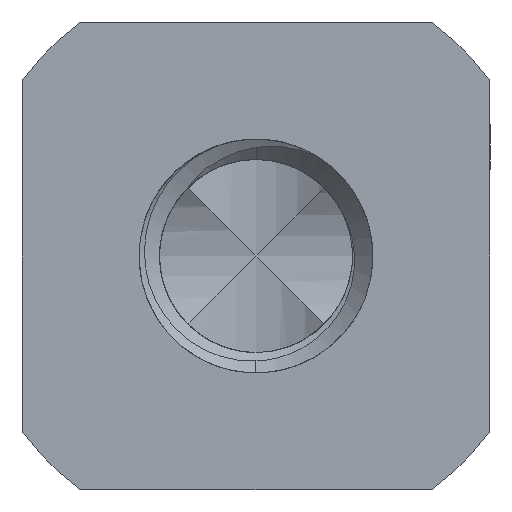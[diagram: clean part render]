
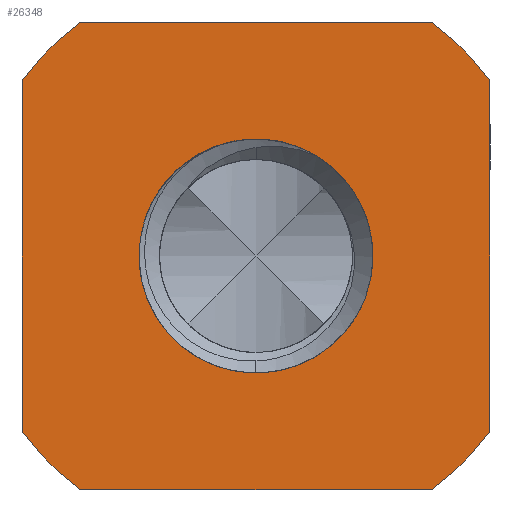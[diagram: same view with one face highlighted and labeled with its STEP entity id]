
A CAD part, front view. The second image highlights one B-rep face of the part: STEP entity #26348.
In plain terms, the highlighted planar face has unit normal (0, -1, 0).
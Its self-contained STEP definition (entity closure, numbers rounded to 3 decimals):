
#343 = CARTESIAN_POINT ( 'NONE',  ( 0., -4., 0. ) ) ;
#473 = CIRCLE ( 'NONE', #52669, 5. ) ;
#1511 = DIRECTION ( 'NONE',  ( 0., 1., 0. ) ) ;
#1901 = DIRECTION ( 'NONE',  ( 0., 0., 1. ) ) ;
#2270 = VECTOR ( 'NONE', #1901, 1000. ) ;
#2293 = VECTOR ( 'NONE', #25396, 1000. ) ;
#3403 = AXIS2_PLACEMENT_3D ( 'NONE', #37912, #42155, #4329 ) ;
#3519 = DIRECTION ( 'NONE',  ( 0., 0., 1. ) ) ;
#4329 = DIRECTION ( 'NONE',  ( 0., 0., 1. ) ) ;
#4933 = LINE ( 'NONE', #29852, #2293 ) ;
#4953 = DIRECTION ( 'NONE',  ( 0., 1., 0. ) ) ;
#5367 = ORIENTED_EDGE ( 'NONE', *, *, #23871, .F. ) ;
#5602 = CARTESIAN_POINT ( 'NONE',  ( 0., -4., 0. ) ) ;
#5639 = CIRCLE ( 'NONE', #38767, 5. ) ;
#6299 = VERTEX_POINT ( 'NONE', #34880 ) ;
#6332 = CARTESIAN_POINT ( 'NONE',  ( 4., -4., 0. ) ) ;
#6358 = AXIS2_PLACEMENT_3D ( 'NONE', #31666, #19396, #44234 ) ;
#6365 = ORIENTED_EDGE ( 'NONE', *, *, #39667, .T. ) ;
#6578 = CARTESIAN_POINT ( 'NONE',  ( 0., -4., 4. ) ) ;
#6856 = CIRCLE ( 'NONE', #6358, 2. ) ;
#8500 = CARTESIAN_POINT ( 'NONE',  ( 4., -4., -3. ) ) ;
#8665 = AXIS2_PLACEMENT_3D ( 'NONE', #41709, #37297, #3519 ) ;
#8718 = VERTEX_POINT ( 'NONE', #35864 ) ;
#9602 = CARTESIAN_POINT ( 'NONE',  ( -3., -4., -4. ) ) ;
#10059 = DIRECTION ( 'NONE',  ( 0., 0., 1. ) ) ;
#10614 = CARTESIAN_POINT ( 'NONE',  ( 3., -4., 4. ) ) ;
#10642 = LINE ( 'NONE', #22109, #17242 ) ;
#10868 = ORIENTED_EDGE ( 'NONE', *, *, #41667, .F. ) ;
#11829 = CIRCLE ( 'NONE', #3403, 5. ) ;
#12420 = ORIENTED_EDGE ( 'NONE', *, *, #47889, .F. ) ;
#14386 = DIRECTION ( 'NONE',  ( 1., 0., 0. ) ) ;
#14813 = DIRECTION ( 'NONE',  ( 0., 0., 1. ) ) ;
#15392 = CARTESIAN_POINT ( 'NONE',  ( 0., -4., -2. ) ) ;
#17242 = VECTOR ( 'NONE', #38447, 1000. ) ;
#18415 = AXIS2_PLACEMENT_3D ( 'NONE', #5602, #47861, #35673 ) ;
#18417 = DIRECTION ( 'NONE',  ( 0., 1., 0. ) ) ;
#19396 = DIRECTION ( 'NONE',  ( 0., 1., 0. ) ) ;
#19796 = VERTEX_POINT ( 'NONE', #39552 ) ;
#19865 = CARTESIAN_POINT ( 'NONE',  ( -3., -4., 4. ) ) ;
#20642 = EDGE_CURVE ( 'NONE', #40405, #6299, #473, .T. ) ;
#22019 = EDGE_LOOP ( 'NONE', ( #27681, #6365, #50112 ) ) ;
#22109 = CARTESIAN_POINT ( 'NONE',  ( -4., -4., 0. ) ) ;
#22804 = LINE ( 'NONE', #6578, #26104 ) ;
#23871 = EDGE_CURVE ( 'NONE', #39844, #37552, #36267, .T. ) ;
#24190 = CIRCLE ( 'NONE', #40426, 2. ) ;
#24852 = LINE ( 'NONE', #6332, #2270 ) ;
#25396 = DIRECTION ( 'NONE',  ( 1., 0., 0. ) ) ;
#26104 = VECTOR ( 'NONE', #14386, 1000. ) ;
#26105 = EDGE_CURVE ( 'NONE', #32466, #54655, #24190, .T. ) ;
#26348 = ADVANCED_FACE ( 'NONE', ( #46038, #29516 ), #31416, .F. ) ;
#26776 = CARTESIAN_POINT ( 'NONE',  ( 0., -4., 0. ) ) ;
#27681 = ORIENTED_EDGE ( 'NONE', *, *, #26105, .T. ) ;
#29126 = EDGE_CURVE ( 'NONE', #8718, #32466, #6856, .T. ) ;
#29138 = CIRCLE ( 'NONE', #8665, 2. ) ;
#29271 = EDGE_CURVE ( 'NONE', #39349, #50094, #22804, .T. ) ;
#29516 = FACE_OUTER_BOUND ( 'NONE', #54789, .T. ) ;
#29852 = CARTESIAN_POINT ( 'NONE',  ( 0., -4., -4. ) ) ;
#31202 = DIRECTION ( 'NONE',  ( 0., 0., 1. ) ) ;
#31416 = PLANE ( 'NONE',  #18415 ) ;
#31666 = CARTESIAN_POINT ( 'NONE',  ( 0., -4., 0. ) ) ;
#32466 = VERTEX_POINT ( 'NONE', #34747 ) ;
#34747 = CARTESIAN_POINT ( 'NONE',  ( 1.037, -4., 1.71 ) ) ;
#34880 = CARTESIAN_POINT ( 'NONE',  ( -4., -4., -3. ) ) ;
#35254 = ORIENTED_EDGE ( 'NONE', *, *, #29271, .F. ) ;
#35673 = DIRECTION ( 'NONE',  ( 0., 0., 1. ) ) ;
#35864 = CARTESIAN_POINT ( 'NONE',  ( -0.455, -4., 1.948 ) ) ;
#36267 = CIRCLE ( 'NONE', #50258, 5. ) ;
#37155 = EDGE_CURVE ( 'NONE', #6299, #52680, #10642, .T. ) ;
#37297 = DIRECTION ( 'NONE',  ( 0., 1., 0. ) ) ;
#37552 = VERTEX_POINT ( 'NONE', #42595 ) ;
#37912 = CARTESIAN_POINT ( 'NONE',  ( 0., -4., 0. ) ) ;
#38447 = DIRECTION ( 'NONE',  ( 0., 0., 1. ) ) ;
#38767 = AXIS2_PLACEMENT_3D ( 'NONE', #47468, #1511, #31202 ) ;
#39349 = VERTEX_POINT ( 'NONE', #19865 ) ;
#39399 = ORIENTED_EDGE ( 'NONE', *, *, #37155, .F. ) ;
#39552 = CARTESIAN_POINT ( 'NONE',  ( 4., -4., 3. ) ) ;
#39667 = EDGE_CURVE ( 'NONE', #54655, #8718, #29138, .T. ) ;
#39844 = VERTEX_POINT ( 'NONE', #8500 ) ;
#40405 = VERTEX_POINT ( 'NONE', #9602 ) ;
#40416 = CARTESIAN_POINT ( 'NONE',  ( 0., -4., 0. ) ) ;
#40426 = AXIS2_PLACEMENT_3D ( 'NONE', #26776, #18417, #10059 ) ;
#40487 = ORIENTED_EDGE ( 'NONE', *, *, #20642, .F. ) ;
#41667 = EDGE_CURVE ( 'NONE', #52680, #39349, #11829, .T. ) ;
#41709 = CARTESIAN_POINT ( 'NONE',  ( 0., -4., 0. ) ) ;
#42071 = CARTESIAN_POINT ( 'NONE',  ( -4., -4., 3. ) ) ;
#42155 = DIRECTION ( 'NONE',  ( 0., 1., 0. ) ) ;
#42595 = CARTESIAN_POINT ( 'NONE',  ( 3., -4., -4. ) ) ;
#43242 = ORIENTED_EDGE ( 'NONE', *, *, #48955, .T. ) ;
#44234 = DIRECTION ( 'NONE',  ( 0., 0., 1. ) ) ;
#46038 = FACE_BOUND ( 'NONE', #22019, .T. ) ;
#47218 = DIRECTION ( 'NONE',  ( 0., 0., 1. ) ) ;
#47468 = CARTESIAN_POINT ( 'NONE',  ( 0., -4., 0. ) ) ;
#47861 = DIRECTION ( 'NONE',  ( 0., 1., 0. ) ) ;
#47889 = EDGE_CURVE ( 'NONE', #50094, #19796, #5639, .T. ) ;
#48955 = EDGE_CURVE ( 'NONE', #40405, #37552, #4933, .T. ) ;
#50068 = EDGE_CURVE ( 'NONE', #39844, #19796, #24852, .T. ) ;
#50094 = VERTEX_POINT ( 'NONE', #10614 ) ;
#50112 = ORIENTED_EDGE ( 'NONE', *, *, #29126, .T. ) ;
#50258 = AXIS2_PLACEMENT_3D ( 'NONE', #40416, #52910, #14813 ) ;
#52609 = ORIENTED_EDGE ( 'NONE', *, *, #50068, .T. ) ;
#52669 = AXIS2_PLACEMENT_3D ( 'NONE', #343, #4953, #47218 ) ;
#52680 = VERTEX_POINT ( 'NONE', #42071 ) ;
#52910 = DIRECTION ( 'NONE',  ( 0., 1., 0. ) ) ;
#54655 = VERTEX_POINT ( 'NONE', #15392 ) ;
#54789 = EDGE_LOOP ( 'NONE', ( #35254, #10868, #39399, #40487, #43242, #5367, #52609, #12420 ) ) ;
